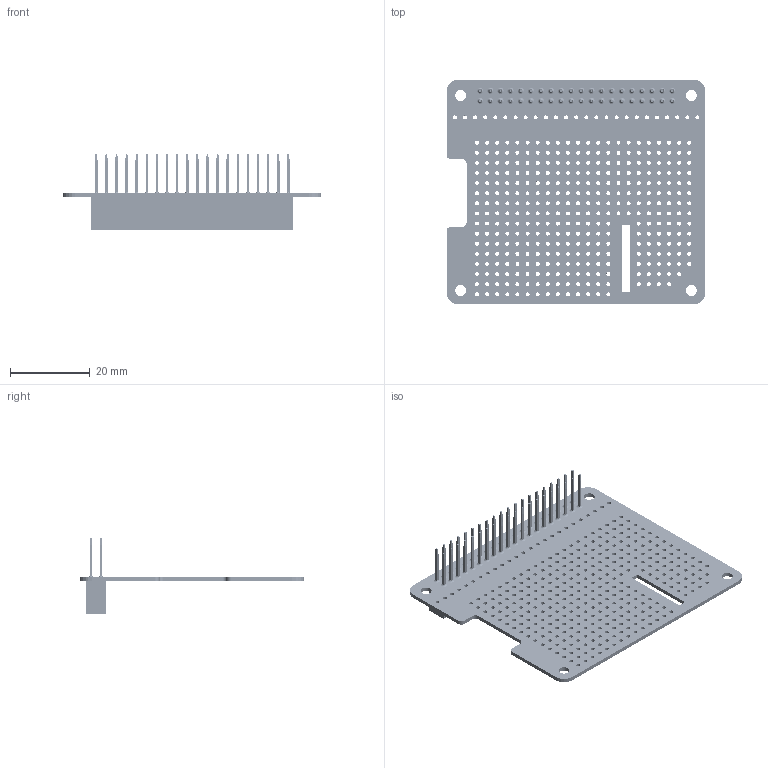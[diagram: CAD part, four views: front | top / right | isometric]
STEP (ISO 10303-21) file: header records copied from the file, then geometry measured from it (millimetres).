
FILE_DESCRIPTION(/* description */ (''),/* implementation_level */ '2;1');
FILE_NAME(/* name */ 'C:/Users/andrew/Desktop/3D Models/breakout-pi-plus-1.0.step',/* time_stamp */ '2018-02-10T15:28:43+00:00',/* author */ ('and101'),/* organization */ (''),/* preprocessor_version */ 'ST-DEVELOPER v16.13',/* originating_system */ 'Autodesk Translation Framework v6.5.0.72',/* authorisation */ '');
FILE_SCHEMA (('AUTOMOTIVE_DESIGN { 1 0 10303 214 3 1 1 }'));
Products named in the file (3): breakout-pi-plus-1.0; Board_breakout-pi-plus-1; 40_way_header
Assembly tree (2 placements, depth 2):
  breakout-pi-plus-1.0
    Board_breakout-pi-plus-1
    40_way_header
Bounding box: 65 x 56.5 x 18.97 mm (x, y, z)
Volume: 6111.9 mm3; surface area: 12667.5 mm2
Topology: 88 solids, 88 shells, 23611 faces, 36891 edges, 13456 vertices
Faces by surface type: plane 23215, cylinder 396
Full cylindrical faces by diameter (mm): 1 x392, 2.75 x4
Entity records: 477592 total; most frequent: DIRECTION 85707, CARTESIAN_POINT 73963, ORIENTED_EDGE 73782, EDGE_CURVE 36891, LINE 35307, VECTOR 35307, AXIS2_PLACEMENT_3D 25200, EDGE_LOOP 24405
